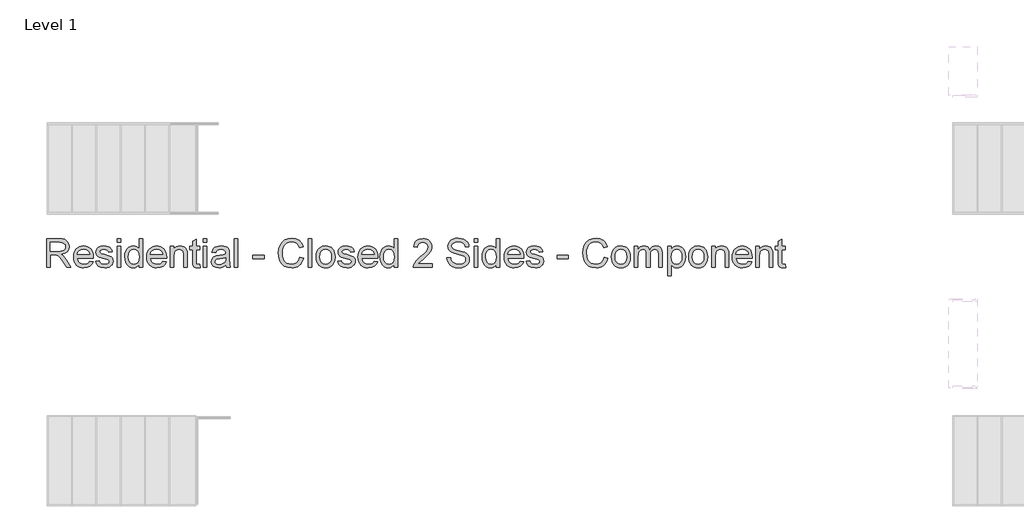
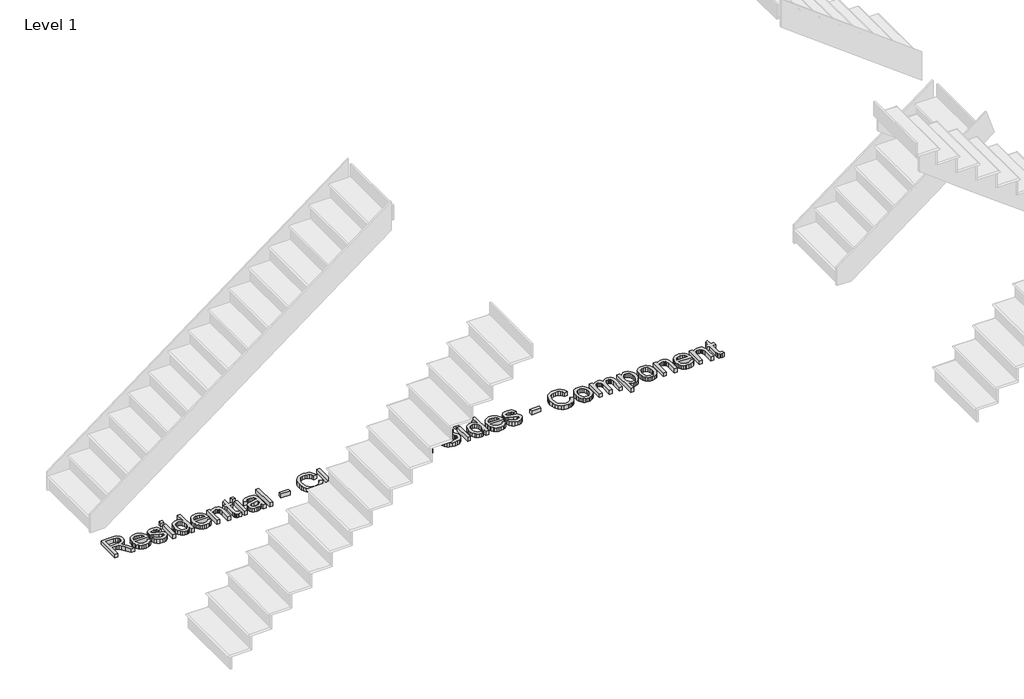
# One storey, part 12 of 15: 1 proxy.
"""IFC4 building model written with IfcOpenShell, lengths in millimetres."""

from ifc_helpers import new_model, si_unit, origin, origin_with_axes, place, context, project, spatial, polyline, outline, extrude, element, save

model = new_model("IFC4")

# Units and contexts
model_context = context("Model", 3, world=origin())
ifc_project = project(units=[si_unit("LENGTHUNIT", "METRE", prefix="MILLI")], contexts=[model_context])

# Site, building, storey
site = spatial("IfcSite", under=ifc_project)
building = spatial("IfcBuilding", under=site)
storey = spatial("IfcBuildingStorey", under=building, Name="Level 1", Elevation=0.0)

# Proxy
placement = place(None, origin())
element("IfcBuildingElementProxy", 1, Name="12\" Arial", ObjectType="12\" Arial", at=placement, inside=storey, context=model_context, shape_type="SweptSolid", body=[
    extrude(outline(polyline([(-27238.310174, 6428.8767877), (-27238.310174, 6728.987557), (-27108.9899817, 6728.987557), (-27074.2328904, 6726.9634945), (-27048.9458471, 6720.891307), (-27030.4636837, 6709.6811146), (-27016.1212317, 6692.2430377), (-27006.9167846, 6670.619456), (-27003.8486356, 6646.8527493), (-27008.9316885, 6617.2886146), (-27024.1808471, 6592.780057), (-27035.7321993, 6582.7925449), (-27050.0540442, 6574.8107781), (-27087.0092125, 6564.86448), (-27065.6878664, 6548.8185185), (-27035.2811356, 6510.2056339), (-26985.238251, 6428.8767877), (-27028.8334433, 6428.8767877), (-27067.8859433, 6491.0823646), (-27096.0945971, 6532.2596723), (-27115.913924, 6551.7126531), (-27133.7549817, 6558.8564031), (-27155.5159433, 6560.1752493), (-27200.7963279, 6560.1752493), (-27200.7963279, 6428.8767877), (-27238.310174, 6428.8767877)]), holes=[polyline([(-27200.7963279, 6597.6890954), (-27116.8297894, 6597.6890954), (-27092.7150539, 6599.0171002), (-27074.003924, 6603.0011146), (-27059.9179144, 6609.9067396), (-27049.6785394, 6619.9995762), (-27043.4414962, 6632.2080618), (-27041.3624817, 6645.4606339), (-27045.3281789, 6663.7596243), (-27057.2252702, 6678.505057), (-27077.6948615, 6688.2315473), (-27107.3780587, 6691.4737108), (-27200.7963279, 6691.4737108), (-27200.7963279, 6597.6890954)])]), origin_with_axes(), (0.0, 0.0, 1.0), 50.8),
    extrude(outline(polyline([(-26788.5836356, 6494.5260185), (-26751.8024817, 6489.8367877), (-26765.0550539, 6462.1227012), (-26786.2023856, 6441.4058262), (-26814.7682269, 6428.4921243), (-26850.2763279, 6424.187557), (-26873.5530466, 6426.044474), (-26894.2928183, 6431.6152252), (-26912.4956428, 6440.8998106), (-26928.1615202, 6453.89823), (-26940.7592486, 6470.2487168), (-26949.757626, 6489.5895041), (-26955.1566524, 6511.9205918), (-26956.9563279, 6537.24198), (-26955.1383351, 6563.4219921), (-26949.6843567, 6586.4972204), (-26940.5943928, 6606.4676651), (-26927.8684433, 6623.3333262), (-26912.2437798, 6636.7324368), (-26894.457674, 6646.30323), (-26874.510126, 6652.045706), (-26852.4011356, 6653.9598646), (-26831.0042305, 6652.0502853), (-26811.6542846, 6646.3215473), (-26794.3512978, 6636.7736507), (-26779.0952702, 6623.4065954), (-26766.6417906, 6606.577569), (-26757.7464481, 6586.6437589), (-26752.4092426, 6563.6051651), (-26750.630174, 6537.4617877), (-26750.8499817, 6527.3506339), (-26919.4424817, 6527.3506339), (-26912.9489962, 6499.2702012), (-26897.8646933, 6478.6265954), (-26876.0945731, 6465.9327012), (-26849.5436356, 6461.7014031), (-26829.5777702, 6463.661355), (-26812.7624817, 6469.5412108), (-26799.0977702, 6479.7073166), (-26788.5836356, 6494.5260185)]), holes=[polyline([(-26919.4424817, 6564.86448), (-26788.1440202, 6564.86448), (-26793.2179144, 6584.683807), (-26803.1642125, 6598.8614031), (-26825.0350779, 6612.0498646), (-26852.547674, 6616.4460185), (-26877.8347173, 6612.9382541), (-26898.743924, 6602.4149608), (-26913.2787077, 6586.0118118), (-26919.4424817, 6564.86448)])]), origin_with_axes(), (0.0, 0.0, 1.0), 50.8),
    extrude(outline(polyline([(-26727.1840202, 6494.5260185), (-26689.670174, 6499.2152493), (-26683.7536837, 6483.1692877), (-26672.3053664, 6471.3729416), (-26655.2519529, 6464.1192877), (-26632.520174, 6461.7014031), (-26610.0631548, 6463.9177973), (-26594.2736356, 6470.56698), (-26584.9318087, 6480.2018839), (-26581.8178664, 6491.3754416), (-26584.950126, 6500.9370762), (-26594.3469048, 6508.2273646), (-26632.9597894, 6518.9246723), (-26689.4503664, 6537.2786146), (-26703.747025, 6546.5013791), (-26714.1054625, 6558.7098646), (-26720.3974577, 6573.1255858), (-26722.4947894, 6588.970057), (-26720.8095971, 6603.5048406), (-26715.7540202, 6616.9222685), (-26707.7859914, 6628.6911387), (-26697.3634433, 6638.2802493), (-26673.5143087, 6649.3805377), (-26641.2392125, 6653.9598646), (-26616.8222414, 6652.1189752), (-26595.5924817, 6646.596307), (-26578.520751, 6637.9322204), (-26566.5778664, 6626.6670762), (-26558.6647894, 6611.9674368), (-26553.6824817, 6592.9998646), (-26591.1963279, 6588.3106339), (-26595.9313519, 6600.1161387), (-26605.3006548, 6609.0091916), (-26619.3958231, 6614.5868118), (-26638.3084433, 6616.4460185), (-26659.8495971, 6614.6692396), (-26674.2103664, 6609.3389031), (-26682.288299, 6601.6456339), (-26684.9809433, 6592.780057), (-26680.5115202, 6581.8629416), (-26666.5170971, 6573.5835185), (-26634.2053664, 6565.5971723), (-26579.1435394, 6547.9392877), (-26564.5995971, 6539.4950089), (-26553.5725779, 6527.9367877), (-26546.6211596, 6513.2279896), (-26544.3040202, 6495.33198), (-26547.0241404, 6476.8314993), (-26555.184501, 6459.430057), (-26568.4737077, 6444.4922925), (-26586.5803664, 6433.3828454), (-26608.4512317, 6426.4863791), (-26633.0330587, 6424.187557), (-26670.858299, 6428.6203454), (-26698.4624817, 6441.9187108), (-26716.8896933, 6463.9361146), (-26727.1840202, 6494.5260185)])), origin_with_axes(), (0.0, 0.0, 1.0), 50.8),
    extrude(outline(polyline([(-26502.1009433, 6428.8767877), (-26502.1009433, 6649.2706339), (-26464.5870971, 6649.2706339), (-26464.5870971, 6428.8767877), (-26502.1009433, 6428.8767877)])), origin_with_axes(), (0.0, 0.0, 1.0), 50.8),
    extrude(outline(polyline([(-26502.1009433, 6691.4737108), (-26502.1009433, 6728.987557), (-26464.5870971, 6728.987557), (-26464.5870971, 6691.4737108), (-26502.1009433, 6691.4737108)])), origin_with_axes(), (0.0, 0.0, 1.0), 50.8),
    extrude(outline(polyline([(-26272.3286356, 6428.8767877), (-26272.3286356, 6464.2658262), (-26283.5525659, 6446.7315834), (-26297.1485875, 6434.2071243), (-26313.1167005, 6426.6924488), (-26331.4569048, 6424.187557), (-26355.7090202, 6427.8143839), (-26377.9095971, 6438.6948646), (-26396.7031548, 6456.068831), (-26410.7342125, 6479.1761146), (-26419.4715683, 6507.0825329), (-26422.3840202, 6538.8539031), (-26419.7005346, 6570.2314512), (-26411.6500779, 6598.5683262), (-26398.2418087, 6622.252605), (-26379.4848856, 6639.6723646), (-26356.7989, 6650.3879896), (-26331.6034433, 6653.9598646), (-26313.249501, 6651.4046002), (-26297.0203664, 6643.738807), (-26283.2640683, 6631.9882541), (-26272.3286356, 6617.1787108), (-26272.3286356, 6728.987557), (-26234.8147894, 6728.987557), (-26234.8147894, 6428.8767877), (-26272.3286356, 6428.8767877)]), holes=[polyline([(-26384.870174, 6539.0004416), (-26380.638876, 6505.0676291), (-26367.9449817, 6480.9345762), (-26349.4994529, 6466.5096964), (-26328.013251, 6461.7014031), (-26306.5362077, 6466.2898887), (-26288.5577702, 6480.0553454), (-26276.3859192, 6503.2542156), (-26272.3286356, 6536.1429416), (-26276.4591885, 6572.0998166), (-26288.8508471, 6597.0296723), (-26307.2872173, 6611.591932), (-26329.5519048, 6616.4460185), (-26351.2579144, 6611.7842637), (-26369.0440202, 6597.7989993), (-26380.9136356, 6573.7758502), (-26384.870174, 6539.0004416)])]), origin_with_axes(), (0.0, 0.0, 1.0), 50.8),
    extrude(outline(polyline([(-26024.2390202, 6494.5260185), (-25987.4578664, 6489.8367877), (-26000.7104385, 6462.1227012), (-26021.8577702, 6441.4058262), (-26050.4236115, 6428.4921243), (-26085.9317125, 6424.187557), (-26109.2084313, 6426.044474), (-26129.9482029, 6431.6152252), (-26148.1510274, 6440.8998106), (-26163.8169048, 6453.89823), (-26176.4146332, 6470.2487168), (-26185.4130106, 6489.5895041), (-26190.812037, 6511.9205918), (-26192.6117125, 6537.24198), (-26190.7937197, 6563.4219921), (-26185.3397414, 6586.4972204), (-26176.2497774, 6606.4676651), (-26163.5238279, 6623.3333262), (-26147.8991644, 6636.7324368), (-26130.1130587, 6646.30323), (-26110.1655106, 6652.045706), (-26088.0565202, 6653.9598646), (-26066.6596152, 6652.0502853), (-26047.3096692, 6646.3215473), (-26030.0066825, 6636.7736507), (-26014.7506548, 6623.4065954), (-26002.2971753, 6606.577569), (-25993.4018327, 6586.6437589), (-25988.0646272, 6563.6051651), (-25986.2855587, 6537.4617877), (-25986.5053664, 6527.3506339), (-26155.0978664, 6527.3506339), (-26148.6043808, 6499.2702012), (-26133.5200779, 6478.6265954), (-26111.7499577, 6465.9327012), (-26085.1990202, 6461.7014031), (-26065.2331548, 6463.661355), (-26048.4178664, 6469.5412108), (-26034.7531548, 6479.7073166), (-26024.2390202, 6494.5260185)]), holes=[polyline([(-26155.0978664, 6564.86448), (-26023.7994048, 6564.86448), (-26028.873299, 6584.683807), (-26038.8195971, 6598.8614031), (-26060.6904625, 6612.0498646), (-26088.2030587, 6616.4460185), (-26113.4901019, 6612.9382541), (-26134.3993087, 6602.4149608), (-26148.9340923, 6586.0118118), (-26155.0978664, 6564.86448)])]), origin_with_axes(), (0.0, 0.0, 1.0), 50.8),
    extrude(outline(polyline([(-25948.7717125, 6428.8767877), (-25948.7717125, 6649.2706339), (-25911.2578664, 6649.2706339), (-25911.2578664, 6618.497557), (-25898.2251019, 6634.0123166), (-25882.5729625, 6645.0942877), (-25864.3014481, 6651.7434704), (-25843.4105587, 6653.9598646), (-25824.9192365, 6652.1739271), (-25807.9848856, 6646.8161146), (-25793.8622414, 6638.5550089), (-25783.8060394, 6628.0591916), (-25772.5592125, 6600.4733262), (-25770.5809433, 6564.205057), (-25770.5809433, 6428.8767877), (-25808.0947894, 6428.8767877), (-25808.0947894, 6559.14948), (-25812.417674, 6592.3404416), (-25818.398275, 6602.2226291), (-25827.6943087, 6609.8884223), (-25839.6097173, 6614.8066195), (-25853.4484433, 6616.4460185), (-25875.4200539, 6612.7642396), (-25894.149501, 6601.7189031), (-25901.6344108, 6592.7022084), (-25906.980775, 6580.3792396), (-25911.2578664, 6545.81448), (-25911.2578664, 6428.8767877), (-25948.7717125, 6428.8767877)])), origin_with_axes(), (0.0, 0.0, 1.0), 50.8),
    extrude(outline(polyline([(-25639.2824817, 6460.1627493), (-25634.593251, 6427.7777493), (-25662.6553664, 6424.187557), (-25680.6612798, 6425.7445281), (-25694.0878664, 6430.4154416), (-25703.5762317, 6437.6141435), (-25709.7674817, 6446.75448), (-25713.174501, 6462.4524127), (-25714.310174, 6489.3239031), (-25714.310174, 6611.7567877), (-25742.4455587, 6611.7567877), (-25742.4455587, 6649.2706339), (-25714.310174, 6649.2706339), (-25714.310174, 6702.8304416), (-25676.7963279, 6724.88448), (-25676.7963279, 6649.2706339), (-25639.2824817, 6649.2706339), (-25639.2824817, 6611.7567877), (-25676.7963279, 6611.7567877), (-25676.7963279, 6490.4229416), (-25674.8180587, 6471.0798646), (-25668.407001, 6464.2291916), (-25655.6215202, 6461.7014031), (-25639.2824817, 6460.1627493)])), origin_with_axes(), (0.0, 0.0, 1.0), 50.8),
    extrude(outline(polyline([(-25601.7686356, 6428.8767877), (-25601.7686356, 6649.2706339), (-25564.2547894, 6649.2706339), (-25564.2547894, 6428.8767877), (-25601.7686356, 6428.8767877)])), origin_with_axes(), (0.0, 0.0, 1.0), 50.8),
    extrude(outline(polyline([(-25601.7686356, 6691.4737108), (-25601.7686356, 6728.987557), (-25564.2547894, 6728.987557), (-25564.2547894, 6691.4737108), (-25601.7686356, 6691.4737108)])), origin_with_axes(), (0.0, 0.0, 1.0), 50.8),
    extrude(outline(polyline([(-25367.3070971, 6457.0121723), (-25385.2305827, 6441.6439512), (-25403.6852702, 6431.5877493), (-25423.0924577, 6426.037605), (-25443.8734433, 6424.187557), (-25475.2235154, 6428.6386627), (-25498.3491164, 6441.99198), (-25512.6091404, 6462.2692396), (-25517.3624817, 6487.4921723), (-25515.5673856, 6503.0435666), (-25510.1820971, 6517.1662108), (-25501.8751981, 6529.2556339), (-25491.3152702, 6538.7073646), (-25465.048251, 6551.0165954), (-25432.5899817, 6556.6583262), (-25394.2335394, 6562.5931339), (-25367.5269048, 6569.5537108), (-25367.3070971, 6577.9064031), (-25369.8898375, 6594.6484223), (-25377.6380587, 6605.6021723), (-25394.9662317, 6613.735057), (-25419.1084433, 6616.4460185), (-25441.4555587, 6614.6417637), (-25457.0619048, 6609.2289993), (-25467.7042606, 6599.2185906), (-25475.1594048, 6583.6214031), (-25512.673251, 6588.3106339), (-25506.1614481, 6608.8260185), (-25496.4441164, 6624.9452493), (-25482.614549, 6637.2727973), (-25463.7660394, 6646.4131339), (-25440.7137077, 6652.073182), (-25414.272674, 6653.9598646), (-25388.9123615, 6652.2929896), (-25368.8091164, 6647.2923646), (-25353.6515442, 6639.7731098), (-25343.128251, 6630.5503454), (-25336.1493567, 6619.1478214), (-25331.6249817, 6605.0892877), (-25329.793251, 6572.2646723), (-25329.793251, 6525.5921723), (-25327.888251, 6460.4191916), (-25320.4147894, 6428.8767877), (-25357.9286356, 6428.8767877), (-25367.3070971, 6457.0121723)]), holes=[polyline([(-25367.3070971, 6532.0398646), (-25427.8274817, 6520.5365954), (-25460.1025779, 6514.4552493), (-25474.7197894, 6504.5639031), (-25479.8486356, 6490.1298646), (-25477.0552462, 6478.9746243), (-25468.6750779, 6469.8342877), (-25454.8913039, 6463.7346243), (-25435.8870971, 6461.7014031), (-25415.7380587, 6463.9452733), (-25397.9336356, 6470.6768839), (-25383.4995971, 6480.595706), (-25373.4617125, 6492.4012108), (-25369.0106067, 6504.5639031), (-25367.5269048, 6521.4158262), (-25367.3070971, 6532.0398646)])]), origin_with_axes(), (0.0, 0.0, 1.0), 50.8),
    extrude(outline(polyline([(-25278.2117125, 6428.8767877), (-25278.2117125, 6728.987557), (-25240.6978664, 6728.987557), (-25240.6978664, 6428.8767877), (-25278.2117125, 6428.8767877)])), origin_with_axes(), (0.0, 0.0, 1.0), 50.8),
    extrude(outline(polyline([(-25085.953251, 6517.9721723), (-25085.953251, 6555.4860185), (-24968.7224817, 6555.4860185), (-24968.7224817, 6517.9721723), (-25085.953251, 6517.9721723)])), origin_with_axes(), (0.0, 0.0, 1.0), 50.8),
    extrude(outline(polyline([(-24593.5840202, 6535.5567877), (-24556.070174, 6525.8852493), (-24563.493263, 6502.5558683), (-24573.3800298, 6482.1709945), (-24585.7304745, 6464.7306279), (-24600.5445971, 6450.2347685), (-24617.4881067, 6438.8391134), (-24636.2267125, 6430.6993598), (-24656.7604144, 6425.8155077), (-24679.0892125, 6424.187557), (-24722.6019769, 6429.1149127), (-24757.1575779, 6443.89698), (-24783.6444048, 6468.0208743), (-24802.9508471, 6500.9737108), (-24814.7380346, 6539.7148166), (-24818.6670971, 6581.2035185), (-24814.22515, 6624.9635666), (-24800.8993087, 6662.7521723), (-24779.3856308, 6693.3695521), (-24750.380174, 6715.6159223), (-24715.9802702, 6729.1615714), (-24678.283251, 6733.6767877), (-24637.1517365, 6727.8335666), (-24619.2580166, 6720.5295401), (-24603.1456548, 6710.3039031), (-24589.0802522, 6697.4268358), (-24577.3274096, 6682.1685185), (-24560.7594048, 6644.5081339), (-24598.273251, 6635.5692877), (-24611.2785394, 6662.9261868), (-24629.0463279, 6681.6922685), (-24651.796424, 6692.5452733), (-24679.7486356, 6696.1629416), (-24711.9687798, 6692.1514512), (-24738.4372894, 6680.11698), (-24758.5222173, 6661.3234223), (-24771.5916164, 6637.0346723), (-24778.7628423, 6609.5770281), (-24781.153251, 6581.2767877), (-24778.3232269, 6546.6204416), (-24769.8331548, 6516.6533262), (-24755.3624817, 6492.5202733), (-24734.5906548, 6475.3661146), (-24709.688275, 6465.117581), (-24682.8259433, 6461.7014031), (-24651.5125058, 6466.3539993), (-24625.419501, 6480.3117877), (-24605.7192365, 6503.42823), (-24593.5840202, 6535.5567877)])), origin_with_axes(), (0.0, 0.0, 1.0), 50.8),
    extrude(outline(polyline([(-24509.1778664, 6428.8767877), (-24509.1778664, 6728.987557), (-24471.6640202, 6728.987557), (-24471.6640202, 6428.8767877), (-24509.1778664, 6428.8767877)])), origin_with_axes(), (0.0, 0.0, 1.0), 50.8),
    extrude(outline(polyline([(-24424.7717125, 6539.0737108), (-24422.7430707, 6567.6166555), (-24416.6571452, 6592.2122204), (-24406.5139361, 6612.8604055), (-24392.3134433, 6629.5612108), (-24378.0167846, 6640.2356219), (-24362.236424, 6647.8602012), (-24344.9723615, 6652.4349488), (-24326.2245971, 6653.9598646), (-24305.5283291, 6652.1029476), (-24286.8149096, 6646.5321964), (-24270.0843387, 6637.247611), (-24255.3366164, 6624.2491916), (-24243.2998555, 6607.9765534), (-24234.7021692, 6588.8693118), (-24229.5435575, 6566.9274668), (-24227.8240202, 6542.1510185), (-24230.8646933, 6504.2525089), (-24239.9867125, 6475.4027493), (-24254.9244769, 6453.7974848), (-24275.4123856, 6437.6324608), (-24299.7469289, 6427.5487829), (-24326.2245971, 6424.187557), (-24347.2231007, 6426.037605), (-24366.1105346, 6431.5877493), (-24382.8868988, 6440.8379896), (-24397.5521933, 6453.7883262), (-24409.4607329, 6470.2189512), (-24417.9668327, 6489.910057), (-24423.0704926, 6512.8616435), (-24424.7717125, 6539.0737108)]), holes=[polyline([(-24387.2578664, 6539.14698), (-24382.9166644, 6505.1958502), (-24369.8930587, 6481.0078454), (-24350.2935394, 6466.5280137), (-24326.2245971, 6461.7014031), (-24302.2655587, 6466.5554896), (-24282.702674, 6481.1177493), (-24269.6790683, 6505.626307), (-24265.3378664, 6540.3192877), (-24269.7065442, 6573.2812829), (-24282.8125779, 6597.1395762), (-24302.4029385, 6611.6194079), (-24326.2245971, 6616.4460185), (-24350.2935394, 6611.6377252), (-24369.8930587, 6597.2128454), (-24382.9166644, 6573.0797925), (-24387.2578664, 6539.14698)])]), origin_with_axes(), (0.0, 0.0, 1.0), 50.8),
    extrude(outline(polyline([(-24199.6886356, 6494.5260185), (-24162.1747894, 6499.2152493), (-24156.258299, 6483.1692877), (-24144.8099817, 6471.3729416), (-24127.7565683, 6464.1192877), (-24105.0247894, 6461.7014031), (-24082.5677702, 6463.9177973), (-24066.778251, 6470.56698), (-24057.436424, 6480.2018839), (-24054.3224817, 6491.3754416), (-24057.4547414, 6500.9370762), (-24066.8515202, 6508.2273646), (-24105.4644048, 6518.9246723), (-24161.9549817, 6537.2786146), (-24176.2516404, 6546.5013791), (-24186.6100779, 6558.7098646), (-24192.9020731, 6573.1255858), (-24194.9994048, 6588.970057), (-24193.3142125, 6603.5048406), (-24188.2586356, 6616.9222685), (-24180.2906067, 6628.6911387), (-24169.8680587, 6638.2802493), (-24146.018924, 6649.3805377), (-24113.7438279, 6653.9598646), (-24089.3268567, 6652.1189752), (-24068.0970971, 6646.596307), (-24051.0253664, 6637.9322204), (-24039.0824817, 6626.6670762), (-24031.1694048, 6611.9674368), (-24026.1870971, 6592.9998646), (-24063.7009433, 6588.3106339), (-24068.4359673, 6600.1161387), (-24077.8052702, 6609.0091916), (-24091.9004385, 6614.5868118), (-24110.8130587, 6616.4460185), (-24132.3542125, 6614.6692396), (-24146.7149817, 6609.3389031), (-24154.7929144, 6601.6456339), (-24157.4855587, 6592.780057), (-24153.0161356, 6581.8629416), (-24139.0217125, 6573.5835185), (-24106.7099817, 6565.5971723), (-24051.6481548, 6547.9392877), (-24037.1042125, 6539.4950089), (-24026.0771933, 6527.9367877), (-24019.125775, 6513.2279896), (-24016.8086356, 6495.33198), (-24019.5287558, 6476.8314993), (-24027.6891164, 6459.430057), (-24040.9783231, 6444.4922925), (-24059.0849817, 6433.3828454), (-24080.9558471, 6426.4863791), (-24105.537674, 6424.187557), (-24143.3629144, 6428.6203454), (-24170.9670971, 6441.9187108), (-24189.3943087, 6463.9361146), (-24199.6886356, 6494.5260185)])), origin_with_axes(), (0.0, 0.0, 1.0), 50.8),
    extrude(outline(polyline([(-23820.3005587, 6494.5260185), (-23783.5194048, 6489.8367877), (-23796.7719769, 6462.1227012), (-23817.9193087, 6441.4058262), (-23846.48515, 6428.4921243), (-23881.993251, 6424.187557), (-23905.2699697, 6426.044474), (-23926.0097414, 6431.6152252), (-23944.2125659, 6440.8998106), (-23959.8784433, 6453.89823), (-23972.4761716, 6470.2487168), (-23981.474549, 6489.5895041), (-23986.8735755, 6511.9205918), (-23988.673251, 6537.24198), (-23986.8552582, 6563.4219921), (-23981.4012798, 6586.4972204), (-23972.3113159, 6606.4676651), (-23959.5853664, 6623.3333262), (-23943.9607029, 6636.7324368), (-23926.1745971, 6646.30323), (-23906.227049, 6652.045706), (-23884.1180587, 6653.9598646), (-23862.7211536, 6652.0502853), (-23843.3712077, 6646.3215473), (-23826.0682209, 6636.7736507), (-23810.8121933, 6623.4065954), (-23798.3587137, 6606.577569), (-23789.4633712, 6586.6437589), (-23784.1261656, 6563.6051651), (-23782.3470971, 6537.4617877), (-23782.5669048, 6527.3506339), (-23951.1594048, 6527.3506339), (-23944.6659192, 6499.2702012), (-23929.5816164, 6478.6265954), (-23907.8114962, 6465.9327012), (-23881.2605587, 6461.7014031), (-23861.2946933, 6463.661355), (-23844.4794048, 6469.5412108), (-23830.8146933, 6479.7073166), (-23820.3005587, 6494.5260185)]), holes=[polyline([(-23951.1594048, 6564.86448), (-23819.8609433, 6564.86448), (-23824.9348375, 6584.683807), (-23834.8811356, 6598.8614031), (-23856.752001, 6612.0498646), (-23884.2645971, 6616.4460185), (-23909.5516404, 6612.9382541), (-23930.4608471, 6602.4149608), (-23944.9956308, 6586.0118118), (-23951.1594048, 6564.86448)])]), origin_with_axes(), (0.0, 0.0, 1.0), 50.8),
    extrude(outline(polyline([(-23608.8455587, 6428.8767877), (-23608.8455587, 6464.2658262), (-23620.069489, 6446.7315834), (-23633.6655106, 6434.2071243), (-23649.6336236, 6426.6924488), (-23667.9738279, 6424.187557), (-23692.2259433, 6427.8143839), (-23714.4265202, 6438.6948646), (-23733.2200779, 6456.068831), (-23747.2511356, 6479.1761146), (-23755.9884914, 6507.0825329), (-23758.9009433, 6538.8539031), (-23756.2174577, 6570.2314512), (-23748.167001, 6598.5683262), (-23734.7587317, 6622.252605), (-23716.0018087, 6639.6723646), (-23693.3158231, 6650.3879896), (-23668.1203664, 6653.9598646), (-23649.766424, 6651.4046002), (-23633.5372894, 6643.738807), (-23619.7809914, 6631.9882541), (-23608.8455587, 6617.1787108), (-23608.8455587, 6728.987557), (-23571.3317125, 6728.987557), (-23571.3317125, 6428.8767877), (-23608.8455587, 6428.8767877)]), holes=[polyline([(-23721.3870971, 6539.0004416), (-23717.155799, 6505.0676291), (-23704.4619048, 6480.9345762), (-23686.016376, 6466.5096964), (-23664.530174, 6461.7014031), (-23643.0531308, 6466.2898887), (-23625.0746933, 6480.0553454), (-23612.9028423, 6503.2542156), (-23608.8455587, 6536.1429416), (-23612.9761115, 6572.0998166), (-23625.3677702, 6597.0296723), (-23643.8041404, 6611.591932), (-23666.0688279, 6616.4460185), (-23687.7748375, 6611.7842637), (-23705.5609433, 6597.7989993), (-23717.4305587, 6573.7758502), (-23721.3870971, 6539.0004416)])]), origin_with_axes(), (0.0, 0.0, 1.0), 50.8),
    extrude(outline(polyline([(-23214.950174, 6466.3906339), (-23214.950174, 6428.8767877), (-23411.8978664, 6428.8767877), (-23407.8680587, 6454.7408262), (-23398.6178183, 6474.9539752), (-23385.0813279, 6494.5626531), (-23365.500126, 6515.0871964), (-23338.115751, 6538.0479416), (-23297.634501, 6574.0048166), (-23273.345751, 6600.5465954), (-23261.201376, 6622.0877493), (-23257.153251, 6643.0427493), (-23260.9724096, 6661.8271483), (-23272.4298856, 6677.4426531), (-23290.0419769, 6687.9659464), (-23312.3249817, 6691.4737108), (-23335.7253423, 6688.0483743), (-23353.9052702, 6677.7723646), (-23365.6375058, 6661.4516435), (-23369.6947894, 6639.8921723), (-23407.2086356, 6644.5814031), (-23398.1140923, 6680.8679896), (-23389.6034132, 6695.3432421), (-23378.4504625, 6707.3731339), (-23364.9116825, 6716.829444), (-23349.2435154, 6723.5839512), (-23311.5190202, 6728.987557), (-23291.4134853, 6727.4855377), (-23273.5197654, 6722.97948), (-23257.8378603, 6715.4693839), (-23244.3677702, 6704.9552493), (-23233.5491103, 6692.2155618), (-23225.8214962, 6678.028807), (-23221.1849277, 6662.3949848), (-23219.6394048, 6645.3140954), (-23221.3062798, 6627.3722925), (-23226.3069048, 6609.7418839), (-23235.1816404, 6591.8092396), (-23248.4708471, 6572.96073), (-23269.6548135, 6550.4579175), (-23302.2138279, 6521.5623646), (-23345.3694048, 6485.4772685), (-23362.2945971, 6466.3906339), (-23214.950174, 6466.3906339)])), origin_with_axes(), (0.0, 0.0, 1.0), 50.8),
    extrude(outline(polyline([(-23060.2055587, 6532.0398646), (-23022.6917125, 6532.0398646), (-23018.3871452, 6511.2222445), (-23010.6022894, 6494.4893839), (-22998.4579144, 6481.2093358), (-22981.0747894, 6470.7501531), (-22959.8267125, 6463.9635906), (-22936.0874817, 6461.7014031), (-22915.1874337, 6463.4140714), (-22896.8884433, 6468.5520762), (-22882.0605827, 6476.6849608), (-22871.573924, 6487.3822685), (-22865.3368808, 6499.6640233), (-22863.2578664, 6512.5502493), (-22864.8148375, 6525.1067637), (-22869.485751, 6535.9597685), (-22878.9741164, 6545.2191675), (-22894.9834433, 6552.9948646), (-22949.6056548, 6567.3189993), (-22985.4617846, 6576.798206), (-23008.4042125, 6585.81948), (-23027.0787077, 6598.440105), (-23040.3129625, 6613.735057), (-23048.1985635, 6631.3746243), (-23050.8270971, 6651.0290954), (-23047.575775, 6673.000706), (-23037.8218087, 6693.4886146), (-23021.8216404, 6710.8534223), (-22999.8317125, 6723.45573), (-22973.4364721, 6731.1215233), (-22944.2203664, 6733.6767877), (-22912.5680587, 6731.0024608), (-22884.8722894, 6722.97948), (-22862.1221933, 6709.7727012), (-22845.3069048, 6691.54698), (-22834.664549, 6669.4379896), (-22830.433251, 6644.5814031), (-22867.9470971, 6644.5814031), (-22874.8344048, 6666.9651531), (-22889.195174, 6683.1210185), (-22911.633876, 6692.9024608), (-22942.7549817, 6696.1629416), (-22974.6087798, 6692.9390954), (-22996.4613279, 6683.267557), (-23009.1002702, 6669.0350089), (-23013.313251, 6652.1281339), (-23010.3275298, 6637.7124127), (-23001.3703664, 6626.117557), (-22980.1955587, 6615.7499608), (-22940.1172894, 6605.162557), (-22898.7568087, 6595.106355), (-22873.7353664, 6586.3323646), (-22852.3499096, 6572.722605), (-22837.4304625, 6555.9256339), (-22828.6656308, 6536.1246243), (-22825.7440202, 6513.5027493), (-22829.1052462, 6490.3771483), (-22839.188924, 6468.6253454), (-22855.5829144, 6449.905057), (-22877.8750779, 6435.8739993), (-22904.6824577, 6427.1091675), (-22934.6220971, 6424.187557), (-22971.375775, 6427.3381339), (-23001.6268087, 6436.7898646), (-23025.7232269, 6452.5793839), (-23044.0130587, 6474.7433262), (-23055.7544529, 6501.7430377), (-23060.2055587, 6532.0398646)])), origin_with_axes(), (0.0, 0.0, 1.0), 50.8),
    extrude(outline(polyline([(-22774.1624817, 6428.8767877), (-22774.1624817, 6649.2706339), (-22736.6486356, 6649.2706339), (-22736.6486356, 6428.8767877), (-22774.1624817, 6428.8767877)])), origin_with_axes(), (0.0, 0.0, 1.0), 50.8),
    extrude(outline(polyline([(-22774.1624817, 6691.4737108), (-22774.1624817, 6728.987557), (-22736.6486356, 6728.987557), (-22736.6486356, 6691.4737108), (-22774.1624817, 6691.4737108)])), origin_with_axes(), (0.0, 0.0, 1.0), 50.8),
    extrude(outline(polyline([(-22544.390174, 6428.8767877), (-22544.390174, 6464.2658262), (-22555.6141043, 6446.7315834), (-22569.210126, 6434.2071243), (-22585.178239, 6426.6924488), (-22603.5184433, 6424.187557), (-22627.7705587, 6427.8143839), (-22649.9711356, 6438.6948646), (-22668.7646933, 6456.068831), (-22682.795751, 6479.1761146), (-22691.5331067, 6507.0825329), (-22694.4455587, 6538.8539031), (-22691.7620731, 6570.2314512), (-22683.7116164, 6598.5683262), (-22670.3033471, 6622.252605), (-22651.546424, 6639.6723646), (-22628.8604385, 6650.3879896), (-22603.6649817, 6653.9598646), (-22585.3110394, 6651.4046002), (-22569.0819048, 6643.738807), (-22555.3256067, 6631.9882541), (-22544.390174, 6617.1787108), (-22544.390174, 6728.987557), (-22506.8763279, 6728.987557), (-22506.8763279, 6428.8767877), (-22544.390174, 6428.8767877)]), holes=[polyline([(-22656.9317125, 6539.0004416), (-22652.7004144, 6505.0676291), (-22640.0065202, 6480.9345762), (-22621.5609914, 6466.5096964), (-22600.0747894, 6461.7014031), (-22578.5977462, 6466.2898887), (-22560.6193087, 6480.0553454), (-22548.4474577, 6503.2542156), (-22544.390174, 6536.1429416), (-22548.5207269, 6572.0998166), (-22560.9123856, 6597.0296723), (-22579.3487558, 6611.591932), (-22601.6134433, 6616.4460185), (-22623.3194529, 6611.7842637), (-22641.1055587, 6597.7989993), (-22652.975174, 6573.7758502), (-22656.9317125, 6539.0004416)])]), origin_with_axes(), (0.0, 0.0, 1.0), 50.8),
    extrude(outline(polyline([(-22296.3005587, 6494.5260185), (-22259.5194048, 6489.8367877), (-22272.7719769, 6462.1227012), (-22293.9193087, 6441.4058262), (-22322.48515, 6428.4921243), (-22357.993251, 6424.187557), (-22381.2699697, 6426.044474), (-22402.0097414, 6431.6152252), (-22420.2125659, 6440.8998106), (-22435.8784433, 6453.89823), (-22448.4761716, 6470.2487168), (-22457.474549, 6489.5895041), (-22462.8735755, 6511.9205918), (-22464.673251, 6537.24198), (-22462.8552582, 6563.4219921), (-22457.4012798, 6586.4972204), (-22448.3113159, 6606.4676651), (-22435.5853664, 6623.3333262), (-22419.9607029, 6636.7324368), (-22402.1745971, 6646.30323), (-22382.227049, 6652.045706), (-22360.1180587, 6653.9598646), (-22338.7211536, 6652.0502853), (-22319.3712077, 6646.3215473), (-22302.0682209, 6636.7736507), (-22286.8121933, 6623.4065954), (-22274.3587137, 6606.577569), (-22265.4633712, 6586.6437589), (-22260.1261656, 6563.6051651), (-22258.3470971, 6537.4617877), (-22258.5669048, 6527.3506339), (-22427.1594048, 6527.3506339), (-22420.6659192, 6499.2702012), (-22405.5816164, 6478.6265954), (-22383.8114962, 6465.9327012), (-22357.2605587, 6461.7014031), (-22337.2946933, 6463.661355), (-22320.4794048, 6469.5412108), (-22306.8146933, 6479.7073166), (-22296.3005587, 6494.5260185)]), holes=[polyline([(-22427.1594048, 6564.86448), (-22295.8609433, 6564.86448), (-22300.9348375, 6584.683807), (-22310.8811356, 6598.8614031), (-22332.752001, 6612.0498646), (-22360.2645971, 6616.4460185), (-22385.5516404, 6612.9382541), (-22406.4608471, 6602.4149608), (-22420.9956308, 6586.0118118), (-22427.1594048, 6564.86448)])]), origin_with_axes(), (0.0, 0.0, 1.0), 50.8),
    extrude(outline(polyline([(-22234.9009433, 6494.5260185), (-22197.3870971, 6499.2152493), (-22191.4706067, 6483.1692877), (-22180.0222894, 6471.3729416), (-22162.968876, 6464.1192877), (-22140.2370971, 6461.7014031), (-22117.7800779, 6463.9177973), (-22101.9905587, 6470.56698), (-22092.6487317, 6480.2018839), (-22089.5347894, 6491.3754416), (-22092.667049, 6500.9370762), (-22102.0638279, 6508.2273646), (-22140.6767125, 6518.9246723), (-22197.1672894, 6537.2786146), (-22211.4639481, 6546.5013791), (-22221.8223856, 6558.7098646), (-22228.1143808, 6573.1255858), (-22230.2117125, 6588.970057), (-22228.5265202, 6603.5048406), (-22223.4709433, 6616.9222685), (-22215.5029144, 6628.6911387), (-22205.0803664, 6638.2802493), (-22181.2312317, 6649.3805377), (-22148.9561356, 6653.9598646), (-22124.5391644, 6652.1189752), (-22103.3094048, 6646.596307), (-22086.237674, 6637.9322204), (-22074.2947894, 6626.6670762), (-22066.3817125, 6611.9674368), (-22061.3994048, 6592.9998646), (-22098.913251, 6588.3106339), (-22103.648275, 6600.1161387), (-22113.0175779, 6609.0091916), (-22127.1127462, 6614.5868118), (-22146.0253664, 6616.4460185), (-22167.5665202, 6614.6692396), (-22181.9272894, 6609.3389031), (-22190.0052221, 6601.6456339), (-22192.6978664, 6592.780057), (-22188.2284433, 6581.8629416), (-22174.2340202, 6573.5835185), (-22141.9222894, 6565.5971723), (-22086.8604625, 6547.9392877), (-22072.3165202, 6539.4950089), (-22061.289501, 6527.9367877), (-22054.3380827, 6513.2279896), (-22052.0209433, 6495.33198), (-22054.7410635, 6476.8314993), (-22062.901424, 6459.430057), (-22076.1906308, 6444.4922925), (-22094.2972894, 6433.3828454), (-22116.1681548, 6426.4863791), (-22140.7499817, 6424.187557), (-22178.5752221, 6428.6203454), (-22206.1794048, 6441.9187108), (-22224.6066164, 6463.9361146), (-22234.9009433, 6494.5260185)])), origin_with_axes(), (0.0, 0.0, 1.0), 50.8),
    extrude(outline(polyline([(-21911.3440202, 6517.9721723), (-21911.3440202, 6555.4860185), (-21794.113251, 6555.4860185), (-21794.113251, 6517.9721723), (-21911.3440202, 6517.9721723)])), origin_with_axes(), (0.0, 0.0, 1.0), 50.8),
    extrude(outline(polyline([(-21418.9747894, 6535.5567877), (-21381.4609433, 6525.8852493), (-21388.8840322, 6502.5558683), (-21398.770799, 6482.1709945), (-21411.1212438, 6464.7306279), (-21425.9353664, 6450.2347685), (-21442.878876, 6438.8391134), (-21461.6174817, 6430.6993598), (-21482.1511837, 6425.8155077), (-21504.4799817, 6424.187557), (-21547.9927462, 6429.1149127), (-21582.5483471, 6443.89698), (-21609.035174, 6468.0208743), (-21628.3416164, 6500.9737108), (-21640.1288039, 6539.7148166), (-21644.0578664, 6581.2035185), (-21639.6159192, 6624.9635666), (-21626.2900779, 6662.7521723), (-21604.7764, 6693.3695521), (-21575.7709433, 6715.6159223), (-21541.3710394, 6729.1615714), (-21503.6740202, 6733.6767877), (-21462.5425058, 6727.8335666), (-21444.6487858, 6720.5295401), (-21428.536424, 6710.3039031), (-21414.4710214, 6697.4268358), (-21402.7181789, 6682.1685185), (-21386.150174, 6644.5081339), (-21423.6640202, 6635.5692877), (-21436.6693087, 6662.9261868), (-21454.4370971, 6681.6922685), (-21477.1871933, 6692.5452733), (-21505.1394048, 6696.1629416), (-21537.359549, 6692.1514512), (-21563.8280587, 6680.11698), (-21583.9129865, 6661.3234223), (-21596.9823856, 6637.0346723), (-21604.1536115, 6609.5770281), (-21606.5440202, 6581.2767877), (-21603.7139962, 6546.6204416), (-21595.223924, 6516.6533262), (-21580.753251, 6492.5202733), (-21559.981424, 6475.3661146), (-21535.0790442, 6465.117581), (-21508.2167125, 6461.7014031), (-21476.903275, 6466.3539993), (-21450.8102702, 6480.3117877), (-21431.1100058, 6503.42823), (-21418.9747894, 6535.5567877)])), origin_with_axes(), (0.0, 0.0, 1.0), 50.8),
    extrude(outline(polyline([(-21343.9470971, 6539.0737108), (-21341.9184553, 6567.6166555), (-21335.8325298, 6592.2122204), (-21325.6893207, 6612.8604055), (-21311.4888279, 6629.5612108), (-21297.1921692, 6640.2356219), (-21281.4118087, 6647.8602012), (-21264.1477462, 6652.4349488), (-21245.3999817, 6653.9598646), (-21224.7037137, 6652.1029476), (-21205.9902942, 6646.5321964), (-21189.2597233, 6637.247611), (-21174.512001, 6624.2491916), (-21162.4752402, 6607.9765534), (-21153.8775539, 6588.8693118), (-21148.7189421, 6566.9274668), (-21146.9994048, 6542.1510185), (-21150.0400779, 6504.2525089), (-21159.1620971, 6475.4027493), (-21174.0998615, 6453.7974848), (-21194.5877702, 6437.6324608), (-21218.9223135, 6427.5487829), (-21245.3999817, 6424.187557), (-21266.3984853, 6426.037605), (-21285.2859192, 6431.5877493), (-21302.0622834, 6440.8379896), (-21316.7275779, 6453.7883262), (-21328.6361176, 6470.2189512), (-21337.1422173, 6489.910057), (-21342.2458772, 6512.8616435), (-21343.9470971, 6539.0737108)]), holes=[polyline([(-21306.433251, 6539.14698), (-21302.092049, 6505.1958502), (-21289.0684433, 6481.0078454), (-21269.468924, 6466.5280137), (-21245.3999817, 6461.7014031), (-21221.4409433, 6466.5554896), (-21201.8780587, 6481.1177493), (-21188.8544529, 6505.626307), (-21184.513251, 6540.3192877), (-21188.8819289, 6573.2812829), (-21201.9879625, 6597.1395762), (-21221.5783231, 6611.6194079), (-21245.3999817, 6616.4460185), (-21269.468924, 6611.6377252), (-21289.0684433, 6597.2128454), (-21302.092049, 6573.0797925), (-21306.433251, 6539.14698)])]), origin_with_axes(), (0.0, 0.0, 1.0), 50.8),
    extrude(outline(polyline([(-21104.7963279, 6428.8767877), (-21104.7963279, 6649.2706339), (-21067.2824817, 6649.2706339), (-21067.2824817, 6613.0023646), (-21055.9990202, 6629.661956), (-21041.4917125, 6642.7130377), (-21024.255126, 6651.1481579), (-21004.7838279, 6653.9598646), (-20983.9204144, 6651.093206), (-20967.1967125, 6642.49323), (-20954.7043087, 6628.7277733), (-20946.5347894, 6610.3646723), (-20932.8609192, 6629.437569), (-20917.2637317, 6643.0610666), (-20899.7432269, 6651.2351651), (-20880.2994048, 6653.9598646), (-20852.0999096, 6649.426331), (-20831.2456548, 6635.82573), (-20818.3594289, 6612.7917156), (-20814.0640202, 6579.9579416), (-20814.0640202, 6428.8767877), (-20851.5778664, 6428.8767877), (-20851.5778664, 6563.8387108), (-20855.0581548, 6595.161307), (-20859.948876, 6603.7979175), (-20867.6604625, 6610.58448), (-20877.5792846, 6614.9806339), (-20889.0917125, 6616.4460185), (-20909.4147654, 6612.6909704), (-20925.9827702, 6601.4258262), (-20937.0006308, 6581.8812589), (-20940.673251, 6553.2879416), (-20940.673251, 6428.8767877), (-20978.1870971, 6428.8767877), (-20978.1870971, 6568.015057), (-20980.3576981, 6589.2264993), (-20986.869501, 6604.3565954), (-20998.3269769, 6613.4236627), (-21015.3345971, 6616.4460185), (-21029.7869529, 6614.4311146), (-21043.1036356, 6608.3864031), (-21054.0940202, 6598.4584223), (-21061.5674817, 6584.7937108), (-21065.8537317, 6565.8352973), (-21067.2824817, 6540.0262108), (-21067.2824817, 6428.8767877), (-21104.7963279, 6428.8767877)])), origin_with_axes(), (0.0, 0.0, 1.0), 50.8),
    extrude(outline(polyline([(-20757.793251, 6344.4706339), (-20757.793251, 6649.2706339), (-20720.2794048, 6649.2706339), (-20720.2794048, 6612.48948), (-20708.0434433, 6630.6327733), (-20694.3420971, 6643.5922685), (-20678.3694048, 6651.3679656), (-20659.3194048, 6653.9598646), (-20633.9499337, 6650.3330377), (-20611.767674, 6639.452557), (-20593.7068087, 6621.9778454), (-20580.7015202, 6598.5683262), (-20572.8433952, 6570.9275089), (-20570.2240202, 6540.7589031), (-20573.1822654, 6508.6761387), (-20582.057001, 6479.9820762), (-20596.5643087, 6456.1329416), (-20616.4202702, 6438.5849608), (-20639.5458712, 6427.7869079), (-20663.8620971, 6424.187557), (-20681.1078423, 6426.5962829), (-20696.5035394, 6433.8224608), (-20709.6828423, 6444.7304175), (-20720.2794048, 6458.18448), (-20720.2794048, 6344.4706339), (-20757.793251, 6344.4706339)]), holes=[polyline([(-20720.2794048, 6537.3152493), (-20716.2221212, 6503.6846723), (-20704.0502702, 6480.1652493), (-20686.09015, 6466.3173646), (-20664.6680587, 6461.7014031), (-20642.8979385, 6466.4822204), (-20624.4798856, 6480.8246723), (-20611.9233712, 6505.2050089), (-20607.7378664, 6540.09948), (-20611.822626, 6573.5468839), (-20624.0769048, 6597.3960185), (-20642.009549, 6611.6835185), (-20663.1294048, 6616.4460185), (-20684.3316885, 6611.3812829), (-20702.9512317, 6596.1870762), (-20715.9473615, 6571.3396483), (-20720.2794048, 6537.3152493)])]), origin_with_axes(), (0.0, 0.0, 1.0), 50.8),
    extrude(outline(polyline([(-20537.3994048, 6539.0737108), (-20535.370763, 6567.6166555), (-20529.2848375, 6592.2122204), (-20519.1416284, 6612.8604055), (-20504.9411356, 6629.5612108), (-20490.6444769, 6640.2356219), (-20474.8641164, 6647.8602012), (-20457.6000539, 6652.4349488), (-20438.8522894, 6653.9598646), (-20418.1560214, 6652.1029476), (-20399.4426019, 6646.5321964), (-20382.712031, 6637.247611), (-20367.9643087, 6624.2491916), (-20355.9275478, 6607.9765534), (-20347.3298615, 6588.8693118), (-20342.1712498, 6566.9274668), (-20340.4517125, 6542.1510185), (-20343.4923856, 6504.2525089), (-20352.6144048, 6475.4027493), (-20367.5521692, 6453.7974848), (-20388.0400779, 6437.6324608), (-20412.3746212, 6427.5487829), (-20438.8522894, 6424.187557), (-20459.850793, 6426.037605), (-20478.7382269, 6431.5877493), (-20495.5145911, 6440.8379896), (-20510.1798856, 6453.7883262), (-20522.0884253, 6470.2189512), (-20530.594525, 6489.910057), (-20535.6981849, 6512.8616435), (-20537.3994048, 6539.0737108)]), holes=[polyline([(-20499.8855587, 6539.14698), (-20495.5443567, 6505.1958502), (-20482.520751, 6481.0078454), (-20462.9212317, 6466.5280137), (-20438.8522894, 6461.7014031), (-20414.893251, 6466.5554896), (-20395.3303664, 6481.1177493), (-20382.3067606, 6505.626307), (-20377.9655587, 6540.3192877), (-20382.3342365, 6573.2812829), (-20395.4402702, 6597.1395762), (-20415.0306308, 6611.6194079), (-20438.8522894, 6616.4460185), (-20462.9212317, 6611.6377252), (-20482.520751, 6597.2128454), (-20495.5443567, 6573.0797925), (-20499.8855587, 6539.14698)])]), origin_with_axes(), (0.0, 0.0, 1.0), 50.8),
    extrude(outline(polyline([(-20298.2486356, 6428.8767877), (-20298.2486356, 6649.2706339), (-20260.7347894, 6649.2706339), (-20260.7347894, 6618.497557), (-20247.702025, 6634.0123166), (-20232.0498856, 6645.0942877), (-20213.7783712, 6651.7434704), (-20192.8874817, 6653.9598646), (-20174.3961596, 6652.1739271), (-20157.4618087, 6646.8161146), (-20143.3391644, 6638.5550089), (-20133.2829625, 6628.0591916), (-20122.0361356, 6600.4733262), (-20120.0578664, 6564.205057), (-20120.0578664, 6428.8767877), (-20157.5717125, 6428.8767877), (-20157.5717125, 6559.14948), (-20161.8945971, 6592.3404416), (-20167.8751981, 6602.2226291), (-20177.1712317, 6609.8884223), (-20189.0866404, 6614.8066195), (-20202.9253664, 6616.4460185), (-20224.8969769, 6612.7642396), (-20243.626424, 6601.7189031), (-20251.1113339, 6592.7022084), (-20256.4576981, 6580.3792396), (-20260.7347894, 6545.81448), (-20260.7347894, 6428.8767877), (-20298.2486356, 6428.8767877)])), origin_with_axes(), (0.0, 0.0, 1.0), 50.8),
    extrude(outline(polyline([(-19914.1713279, 6494.5260185), (-19877.390174, 6489.8367877), (-19890.6427462, 6462.1227012), (-19911.7900779, 6441.4058262), (-19940.3559192, 6428.4921243), (-19975.8640202, 6424.187557), (-19999.140739, 6426.044474), (-20019.8805106, 6431.6152252), (-20038.0833351, 6440.8998106), (-20053.7492125, 6453.89823), (-20066.3469409, 6470.2487168), (-20075.3453183, 6489.5895041), (-20080.7443447, 6511.9205918), (-20082.5440202, 6537.24198), (-20080.7260274, 6563.4219921), (-20075.272049, 6586.4972204), (-20066.1820851, 6606.4676651), (-20053.4561356, 6623.3333262), (-20037.8314721, 6636.7324368), (-20020.0453664, 6646.30323), (-20000.0978183, 6652.045706), (-19977.9888279, 6653.9598646), (-19956.5919228, 6652.0502853), (-19937.2419769, 6646.3215473), (-19919.9389902, 6636.7736507), (-19904.6829625, 6623.4065954), (-19892.2294829, 6606.577569), (-19883.3341404, 6586.6437589), (-19877.9969349, 6563.6051651), (-19876.2178664, 6537.4617877), (-19876.437674, 6527.3506339), (-20045.030174, 6527.3506339), (-20038.5366885, 6499.2702012), (-20023.4523856, 6478.6265954), (-20001.6822654, 6465.9327012), (-19975.1313279, 6461.7014031), (-19955.1654625, 6463.661355), (-19938.350174, 6469.5412108), (-19924.6854625, 6479.7073166), (-19914.1713279, 6494.5260185)]), holes=[polyline([(-20045.030174, 6564.86448), (-19913.7317125, 6564.86448), (-19918.8056067, 6584.683807), (-19928.7519048, 6598.8614031), (-19950.6227702, 6612.0498646), (-19978.1353664, 6616.4460185), (-20003.4224096, 6612.9382541), (-20024.3316164, 6602.4149608), (-20038.8664, 6586.0118118), (-20045.030174, 6564.86448)])]), origin_with_axes(), (0.0, 0.0, 1.0), 50.8),
    extrude(outline(polyline([(-19838.7040202, 6428.8767877), (-19838.7040202, 6649.2706339), (-19801.190174, 6649.2706339), (-19801.190174, 6618.497557), (-19788.1574096, 6634.0123166), (-19772.5052702, 6645.0942877), (-19754.2337558, 6651.7434704), (-19733.3428664, 6653.9598646), (-19714.8515442, 6652.1739271), (-19697.9171933, 6646.8161146), (-19683.794549, 6638.5550089), (-19673.7383471, 6628.0591916), (-19662.4915202, 6600.4733262), (-19660.513251, 6564.205057), (-19660.513251, 6428.8767877), (-19698.0270971, 6428.8767877), (-19698.0270971, 6559.14948), (-19702.3499817, 6592.3404416), (-19708.3305827, 6602.2226291), (-19717.6266164, 6609.8884223), (-19729.542025, 6614.8066195), (-19743.380751, 6616.4460185), (-19765.3523615, 6612.7642396), (-19784.0818087, 6601.7189031), (-19791.5667185, 6592.7022084), (-19796.9130827, 6580.3792396), (-19801.190174, 6545.81448), (-19801.190174, 6428.8767877), (-19838.7040202, 6428.8767877)])), origin_with_axes(), (0.0, 0.0, 1.0), 50.8),
    extrude(outline(polyline([(-19529.2147894, 6460.1627493), (-19524.5255587, 6427.7777493), (-19552.587674, 6424.187557), (-19570.5935875, 6425.7445281), (-19584.020174, 6430.4154416), (-19593.5085394, 6437.6141435), (-19599.6997894, 6446.75448), (-19603.1068087, 6462.4524127), (-19604.2424817, 6489.3239031), (-19604.2424817, 6611.7567877), (-19632.3778664, 6611.7567877), (-19632.3778664, 6649.2706339), (-19604.2424817, 6649.2706339), (-19604.2424817, 6702.8304416), (-19566.7286356, 6724.88448), (-19566.7286356, 6649.2706339), (-19529.2147894, 6649.2706339), (-19529.2147894, 6611.7567877), (-19566.7286356, 6611.7567877), (-19566.7286356, 6490.4229416), (-19564.7503664, 6471.0798646), (-19558.3393087, 6464.2291916), (-19545.5538279, 6461.7014031), (-19529.2147894, 6460.1627493)])), origin_with_axes(), (0.0, 0.0, 1.0), 50.8),
])

save(model, "model.ifc")
